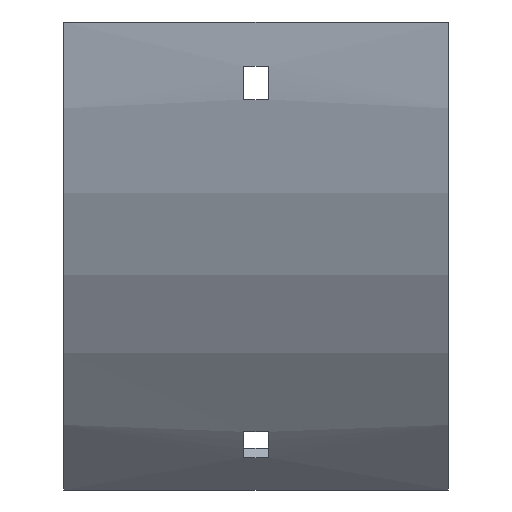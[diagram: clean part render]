
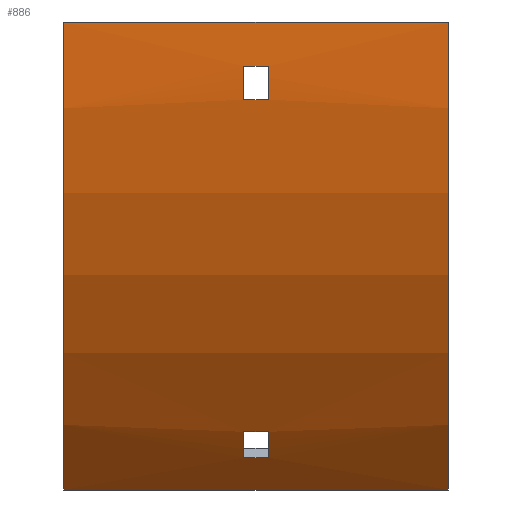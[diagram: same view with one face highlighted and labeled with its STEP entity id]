
A CAD part, front view. The second image highlights one B-rep face of the part: STEP entity #886.
In plain terms, the highlighted cylindrical face has radius 179 mm (diameter 358 mm), a partial arc.
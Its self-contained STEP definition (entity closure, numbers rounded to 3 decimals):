
#8 = FACE_OUTER_BOUND ( 'NONE', #1230, .T. ) ;
#19 = CARTESIAN_POINT ( 'NONE',  ( -3.25, -40.547, -110.849 ) ) ;
#28 = ORIENTED_EDGE ( 'NONE', *, *, #492, .F. ) ;
#38 = CIRCLE ( 'NONE', #419, 179. ) ;
#50 = DIRECTION ( 'NONE',  ( 1., 0., 0. ) ) ;
#69 = CARTESIAN_POINT ( 'NONE',  ( -3.25, -77.764, -21. ) ) ;
#77 = DIRECTION ( 'NONE',  ( -1., 0., 0. ) ) ;
#80 = VERTEX_POINT ( 'NONE', #19 ) ;
#109 = ORIENTED_EDGE ( 'NONE', *, *, #1436, .F. ) ;
#125 = CIRCLE ( 'NONE', #232, 179. ) ;
#146 = FACE_BOUND ( 'NONE', #1171, .T. ) ;
#159 = VECTOR ( 'NONE', #409, 1000. ) ;
#179 = DIRECTION ( 'NONE',  ( -1., 0., 0. ) ) ;
#185 = VERTEX_POINT ( 'NONE', #301 ) ;
#190 = EDGE_CURVE ( 'NONE', #80, #626, #125, .T. ) ;
#218 = EDGE_CURVE ( 'NONE', #972, #1560, #1489, .T. ) ;
#232 = AXIS2_PLACEMENT_3D ( 'NONE', #1466, #50, #445 ) ;
#240 = LINE ( 'NONE', #1683, #159 ) ;
#256 = CARTESIAN_POINT ( 'NONE',  ( 3.25, 100., 0. ) ) ;
#262 = ORIENTED_EDGE ( 'NONE', *, *, #295, .F. ) ;
#266 = DIRECTION ( 'NONE',  ( -1., 0., 0. ) ) ;
#280 = ORIENTED_EDGE ( 'NONE', *, *, #416, .T. ) ;
#282 = DIRECTION ( 'NONE',  ( 0., 0., -1. ) ) ;
#289 = EDGE_CURVE ( 'NONE', #644, #1569, #1346, .T. ) ;
#291 = CARTESIAN_POINT ( 'NONE',  ( 52., -78.597, -12. ) ) ;
#295 = EDGE_CURVE ( 'NONE', #626, #644, #1007, .T. ) ;
#301 = CARTESIAN_POINT ( 'NONE',  ( 3.25, -77.764, -21. ) ) ;
#322 = DIRECTION ( 'NONE',  ( 1., 0., 0. ) ) ;
#333 = CARTESIAN_POINT ( 'NONE',  ( 3.25, -34.773, -117.802 ) ) ;
#346 = CIRCLE ( 'NONE', #1549, 179. ) ;
#354 = DIRECTION ( 'NONE',  ( 0., 0., -1. ) ) ;
#409 = DIRECTION ( 'NONE',  ( -1., 0., 0. ) ) ;
#416 = EDGE_CURVE ( 'NONE', #954, #972, #38, .T. ) ;
#419 = AXIS2_PLACEMENT_3D ( 'NONE', #1543, #266, #1024 ) ;
#427 = AXIS2_PLACEMENT_3D ( 'NONE', #1671, #1314, #763 ) ;
#431 = LINE ( 'NONE', #1179, #673 ) ;
#445 = DIRECTION ( 'NONE',  ( 0., 0., -1. ) ) ;
#452 = DIRECTION ( 'NONE',  ( 1., 0., 0. ) ) ;
#463 = EDGE_CURVE ( 'NONE', #1560, #185, #1646, .T. ) ;
#473 = CARTESIAN_POINT ( 'NONE',  ( 52., -79., 0. ) ) ;
#476 = ORIENTED_EDGE ( 'NONE', *, *, #1227, .T. ) ;
#486 = VERTEX_POINT ( 'NONE', #1579 ) ;
#492 = EDGE_CURVE ( 'NONE', #486, #1679, #240, .T. ) ;
#537 = CIRCLE ( 'NONE', #1441, 179. ) ;
#606 = AXIS2_PLACEMENT_3D ( 'NONE', #1656, #77, #1506 ) ;
#626 = VERTEX_POINT ( 'NONE', #806 ) ;
#644 = VERTEX_POINT ( 'NONE', #333 ) ;
#673 = VECTOR ( 'NONE', #179, 1000. ) ;
#676 = AXIS2_PLACEMENT_3D ( 'NONE', #256, #793, #1315 ) ;
#727 = VECTOR ( 'NONE', #1428, 1000. ) ;
#738 = EDGE_CURVE ( 'NONE', #1692, #1679, #537, .T. ) ;
#763 = DIRECTION ( 'NONE',  ( 0., 0., 1. ) ) ;
#793 = DIRECTION ( 'NONE',  ( 1., 0., 0. ) ) ;
#804 = ORIENTED_EDGE ( 'NONE', *, *, #1099, .T. ) ;
#806 = CARTESIAN_POINT ( 'NONE',  ( -3.25, -34.773, -117.802 ) ) ;
#853 = ORIENTED_EDGE ( 'NONE', *, *, #218, .T. ) ;
#859 = DIRECTION ( 'NONE',  ( -1., 0., 0. ) ) ;
#884 = CARTESIAN_POINT ( 'NONE',  ( -52., -79., 0. ) ) ;
#886 = ADVANCED_FACE ( 'NONE', ( #8, #146, #1570 ), #1041, .T. ) ;
#894 = VECTOR ( 'NONE', #859, 1000. ) ;
#916 = VECTOR ( 'NONE', #322, 1000. ) ;
#935 = CARTESIAN_POINT ( 'NONE',  ( 52., -79., 0. ) ) ;
#949 = VERTEX_POINT ( 'NONE', #935 ) ;
#954 = VERTEX_POINT ( 'NONE', #69 ) ;
#972 = VERTEX_POINT ( 'NONE', #1631 ) ;
#1007 = LINE ( 'NONE', #1260, #1129 ) ;
#1024 = DIRECTION ( 'NONE',  ( 0., 0., 1. ) ) ;
#1041 = CYLINDRICAL_SURFACE ( 'NONE', #427, 179. ) ;
#1074 = EDGE_CURVE ( 'NONE', #949, #486, #346, .T. ) ;
#1082 = ORIENTED_EDGE ( 'NONE', *, *, #190, .F. ) ;
#1099 = EDGE_CURVE ( 'NONE', #949, #1692, #1127, .T. ) ;
#1127 = LINE ( 'NONE', #473, #894 ) ;
#1129 = VECTOR ( 'NONE', #1629, 1000. ) ;
#1166 = CARTESIAN_POINT ( 'NONE',  ( 52., -77.764, -21. ) ) ;
#1171 = EDGE_LOOP ( 'NONE', ( #476, #280, #853, #1639 ) ) ;
#1179 = CARTESIAN_POINT ( 'NONE',  ( 52., -40.547, -110.849 ) ) ;
#1227 = EDGE_CURVE ( 'NONE', #185, #954, #1290, .T. ) ;
#1230 = EDGE_LOOP ( 'NONE', ( #1532, #28, #1467, #804 ) ) ;
#1258 = CARTESIAN_POINT ( 'NONE',  ( -52., 100., 0. ) ) ;
#1260 = CARTESIAN_POINT ( 'NONE',  ( 52., -34.773, -117.802 ) ) ;
#1290 = LINE ( 'NONE', #1166, #727 ) ;
#1314 = DIRECTION ( 'NONE',  ( -1., 0., 0. ) ) ;
#1315 = DIRECTION ( 'NONE',  ( 0., 0., -1. ) ) ;
#1335 = CARTESIAN_POINT ( 'NONE',  ( 52., 100., 0. ) ) ;
#1346 = CIRCLE ( 'NONE', #606, 179. ) ;
#1360 = CARTESIAN_POINT ( 'NONE',  ( 3.25, -78.597, -12. ) ) ;
#1428 = DIRECTION ( 'NONE',  ( -1., 0., 0. ) ) ;
#1436 = EDGE_CURVE ( 'NONE', #1569, #80, #431, .T. ) ;
#1441 = AXIS2_PLACEMENT_3D ( 'NONE', #1258, #452, #354 ) ;
#1449 = DIRECTION ( 'NONE',  ( 1., 0., 0. ) ) ;
#1466 = CARTESIAN_POINT ( 'NONE',  ( -3.25, 100., 0. ) ) ;
#1467 = ORIENTED_EDGE ( 'NONE', *, *, #1074, .F. ) ;
#1489 = LINE ( 'NONE', #291, #916 ) ;
#1506 = DIRECTION ( 'NONE',  ( 0., 0., 1. ) ) ;
#1531 = ORIENTED_EDGE ( 'NONE', *, *, #289, .F. ) ;
#1532 = ORIENTED_EDGE ( 'NONE', *, *, #738, .T. ) ;
#1543 = CARTESIAN_POINT ( 'NONE',  ( -3.25, 100., 0. ) ) ;
#1549 = AXIS2_PLACEMENT_3D ( 'NONE', #1335, #1449, #282 ) ;
#1560 = VERTEX_POINT ( 'NONE', #1360 ) ;
#1569 = VERTEX_POINT ( 'NONE', #1616 ) ;
#1570 = FACE_BOUND ( 'NONE', #1668, .T. ) ;
#1571 = CARTESIAN_POINT ( 'NONE',  ( -52., -26.572, -126.572 ) ) ;
#1579 = CARTESIAN_POINT ( 'NONE',  ( 52., -26.572, -126.572 ) ) ;
#1616 = CARTESIAN_POINT ( 'NONE',  ( 3.25, -40.547, -110.849 ) ) ;
#1629 = DIRECTION ( 'NONE',  ( 1., 0., 0. ) ) ;
#1631 = CARTESIAN_POINT ( 'NONE',  ( -3.25, -78.597, -12. ) ) ;
#1639 = ORIENTED_EDGE ( 'NONE', *, *, #463, .T. ) ;
#1646 = CIRCLE ( 'NONE', #676, 179. ) ;
#1656 = CARTESIAN_POINT ( 'NONE',  ( 3.25, 100., 0. ) ) ;
#1668 = EDGE_LOOP ( 'NONE', ( #1082, #109, #1531, #262 ) ) ;
#1671 = CARTESIAN_POINT ( 'NONE',  ( 52., 100., 0. ) ) ;
#1679 = VERTEX_POINT ( 'NONE', #1571 ) ;
#1683 = CARTESIAN_POINT ( 'NONE',  ( 52., -26.572, -126.572 ) ) ;
#1692 = VERTEX_POINT ( 'NONE', #884 ) ;
